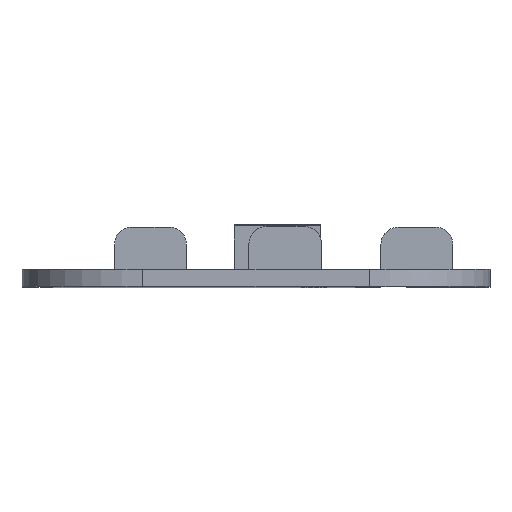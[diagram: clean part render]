
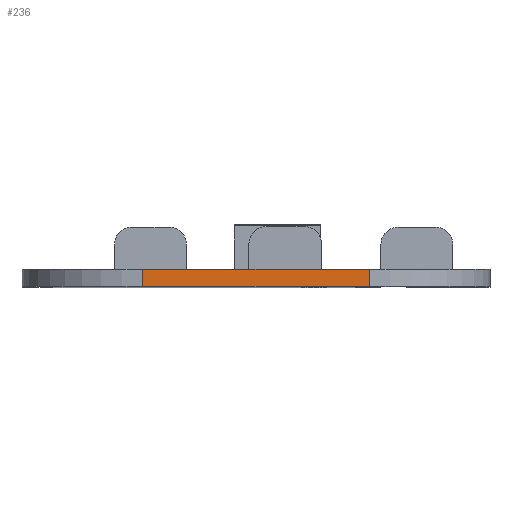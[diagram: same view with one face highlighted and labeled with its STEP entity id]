
A CAD part, top view. The second image highlights one B-rep face of the part: STEP entity #236.
In plain terms, the highlighted planar face has unit normal (0, 0, 1).
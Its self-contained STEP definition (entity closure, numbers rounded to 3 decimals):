
#197=CARTESIAN_POINT('',(36.5,-67.259,87.2));
#198=DIRECTION('',(0.,0.,1.));
#199=DIRECTION('',(0.,-1.,0.));
#200=AXIS2_PLACEMENT_3D('',#197,#198,#199);
#201=PLANE('',#200);
#202=CARTESIAN_POINT('',(23.242,-68.259,87.2));
#203=VERTEX_POINT('',#202);
#204=CARTESIAN_POINT('',(49.5,-68.259,87.2));
#205=VERTEX_POINT('',#204);
#206=CARTESIAN_POINT('',(23.242,-68.259,87.2));
#207=DIRECTION('',(1.,0.,-0.));
#208=VECTOR('',#207,26.258);
#209=LINE('',#206,#208);
#210=EDGE_CURVE('',#203,#205,#209,.T.);
#211=ORIENTED_EDGE('',*,*,#210,.T.);
#212=CARTESIAN_POINT('',(49.5,-66.259,87.2));
#213=VERTEX_POINT('',#212);
#214=CARTESIAN_POINT('',(49.5,-68.259,87.2));
#215=DIRECTION('',(0.,1.,-0.));
#216=VECTOR('',#215,2.);
#217=LINE('',#214,#216);
#218=EDGE_CURVE('',#205,#213,#217,.T.);
#219=ORIENTED_EDGE('',*,*,#218,.T.);
#220=CARTESIAN_POINT('',(23.242,-66.259,87.2));
#221=VERTEX_POINT('',#220);
#222=CARTESIAN_POINT('',(23.242,-66.259,87.2));
#223=DIRECTION('',(1.,0.,-0.));
#224=VECTOR('',#223,26.258);
#225=LINE('',#222,#224);
#226=EDGE_CURVE('',#221,#213,#225,.T.);
#227=ORIENTED_EDGE('',*,*,#226,.F.);
#228=CARTESIAN_POINT('',(23.242,-66.259,87.2));
#229=DIRECTION('',(-0.,-1.,0.));
#230=VECTOR('',#229,2.);
#231=LINE('',#228,#230);
#232=EDGE_CURVE('',#221,#203,#231,.T.);
#233=ORIENTED_EDGE('',*,*,#232,.T.);
#234=EDGE_LOOP('',(#211,#219,#227,#233));
#235=FACE_BOUND('',#234,.T.);
#236=ADVANCED_FACE('',(#235),#201,.T.);
